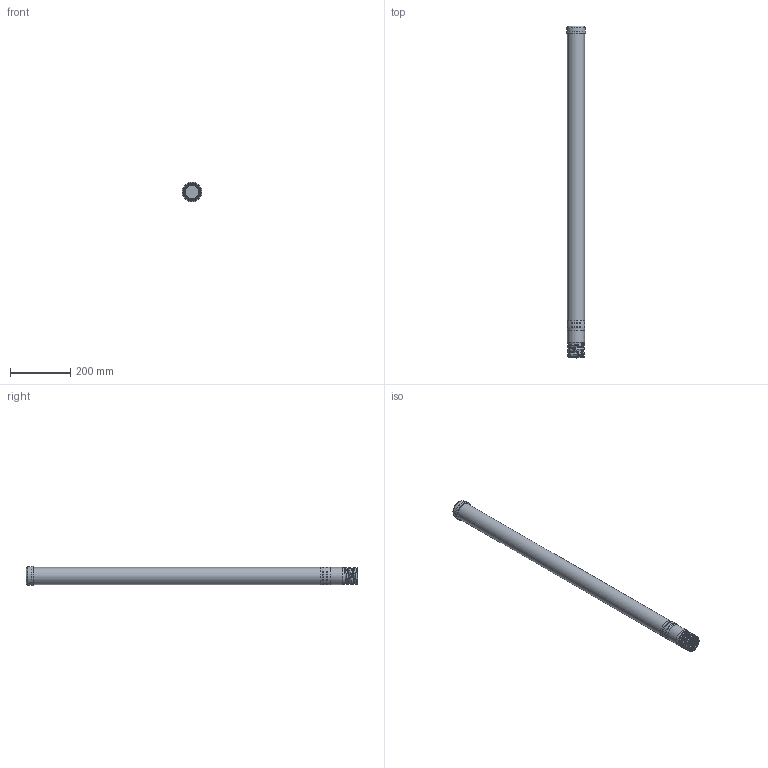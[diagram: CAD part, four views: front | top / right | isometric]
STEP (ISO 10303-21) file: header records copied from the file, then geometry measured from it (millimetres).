
FILE_DESCRIPTION(/* description */ (''),/* implementation_level */ '2;1');
FILE_NAME(/* name */ 'J:\onedrive\INVENTOR mellan skolPC och privatPC\Belos job 2022\export alla parter\9600 Garnityr för avstängning.stp',/* time_stamp */ '2022-02-19T13:21:41+01:00',/* author */ ('erikb'),/* organization */ (''),/* preprocessor_version */ 'ST-DEVELOPER v18.1',/* originating_system */ 'Autodesk Inventor 2022',/* authorisation */ '');
FILE_SCHEMA (('CONFIG_CONTROL_DESIGN'));
Length unit declared in the file: millimetre
Products named in the file (1): 9600 Garnityr för avstängning
Bounding box: 66.3 x 1103.7 x 66.3 mm (x, y, z)
Volume: 881253.6 mm3; surface area: 367441.6 mm2
Topology: 1 solids, 1 shells, 63 faces, 159 edges, 102 vertices
Faces by surface type: bspline 29, cylinder 22, plane 7, cone 3, torus 2
Full cylindrical faces by diameter (mm): 45 x3, 48 x1, 51 x4, 56 x2, 57 x2, 59.4 x1, 61.6 x1, 66.3 x1
Entity records: 5768 total; most frequent: CARTESIAN_POINT 4350, ORIENTED_EDGE 318, DIRECTION 194, EDGE_CURVE 159, VERTEX_POINT 102, AXIS2_PLACEMENT_3D 81, B_SPLINE_CURVE_WITH_KNOTS 80, EDGE_LOOP 67
